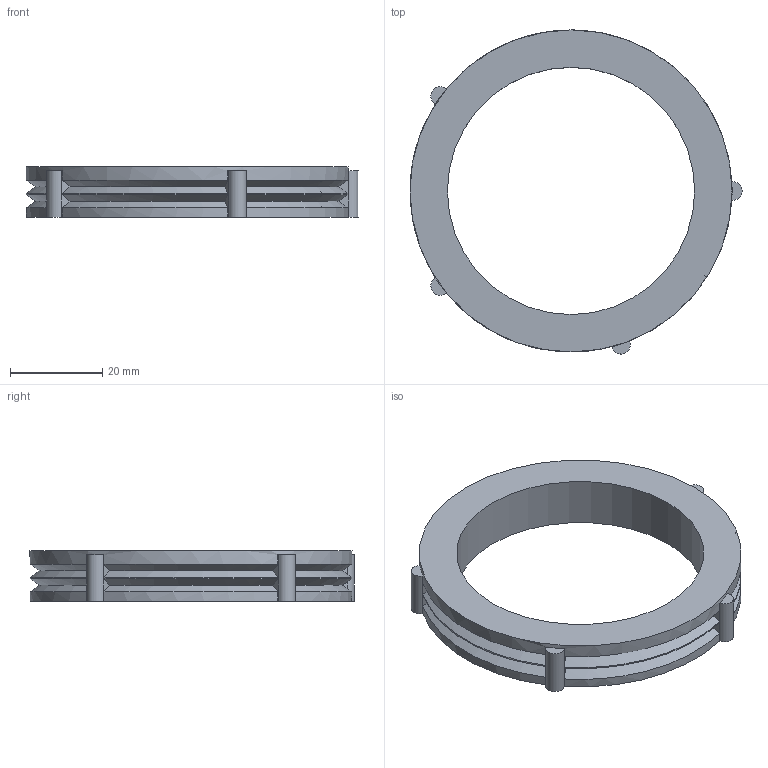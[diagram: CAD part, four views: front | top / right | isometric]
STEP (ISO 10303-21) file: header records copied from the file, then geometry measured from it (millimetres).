
FILE_DESCRIPTION(/* description */ (''),/* implementation_level */ '2;1');
FILE_NAME(/* name */ 'D:/Dokumenty/3D/Luke''s 3D/Projects/Spool winder v3/STEP/Socket ring.step',/* time_stamp */ '2021-11-14T12:56:22+01:00',/* author */ (''),/* organization */ (''),/* preprocessor_version */ 'ST-DEVELOPER v18.1',/* originating_system */ 'Autodesk Translation Framework v10.10.0.1391',/* authorisation */ '');
FILE_SCHEMA (('AUTOMOTIVE_DESIGN { 1 0 10303 214 3 1 1 }'));
Length unit declared in the file: millimetre
Products named in the file (2): bearing; Socket bearing
Assembly tree (1 placements, depth 2):
  bearing
    Socket bearing
Bounding box: 71.83 x 70.12 x 10.86 mm (x, y, z)
Volume: 16105.1 mm3; surface area: 8346.1 mm2
Topology: 1 solids, 1 shells, 65 faces, 189 edges, 126 vertices
Faces by surface type: plane 32, cylinder 17, cone 16
Full cylindrical faces by diameter (mm): 53.5 x1, 69.68 x1
Entity records: 2314 total; most frequent: CARTESIAN_POINT 623, ORIENTED_EDGE 378, DIRECTION 323, EDGE_CURVE 189, VERTEX_POINT 126, AXIS2_PLACEMENT_3D 122, LINE 79, VECTOR 79
